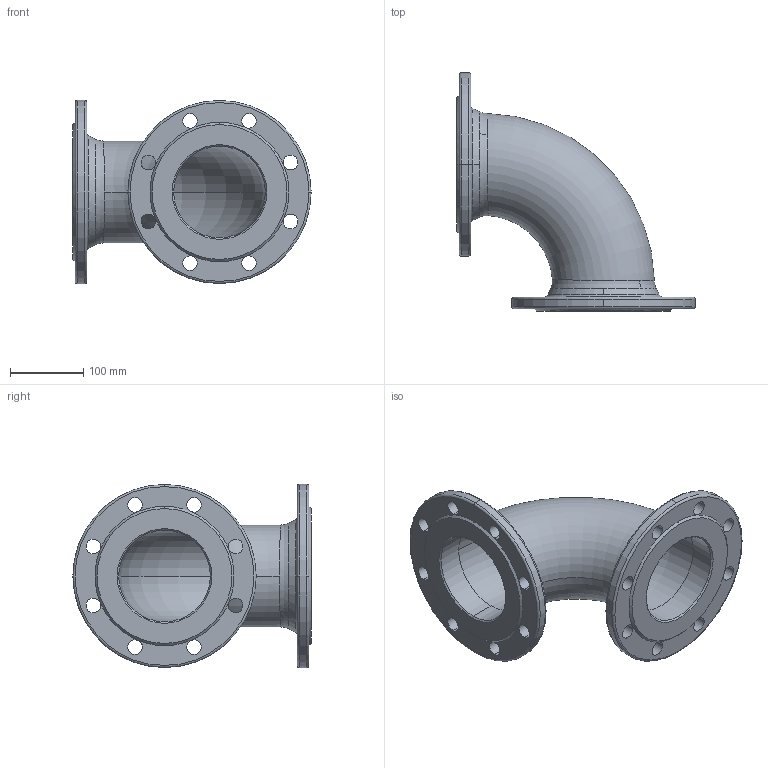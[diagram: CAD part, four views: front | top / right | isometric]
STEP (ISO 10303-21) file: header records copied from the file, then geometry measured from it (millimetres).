
FILE_DESCRIPTION (( 'STEP AP203' ), '1' );
FILE_NAME ('O_712_0610_DN125_1X_REV01.step', '2021-11-19T09:54:56', ( '' ), ( '' ), 'SwSTEP 2.0', 'SolidWorks 2019', '' );
FILE_SCHEMA (( 'CONFIG_CONTROL_DESIGN' ));
Length unit declared in the file: millimetre
Products named in the file (1): O_712_0610_DN125_1X_REV01
Bounding box: 325 x 325 x 250 mm (x, y, z)
Volume: 2094981.2 mm3; surface area: 420745.9 mm2
Topology: 1 solids, 1 shells, 167 faces, 493 edges, 320 vertices
Faces by surface type: cylinder 90, plane 41, torus 20, cone 12, bspline 4
Entity records: 7686 total; most frequent: CARTESIAN_POINT 3321, ORIENTED_EDGE 986, DIRECTION 805, EDGE_CURVE 493, AXIS2_PLACEMENT_3D 334, VERTEX_POINT 320, EDGE_LOOP 193, B_SPLINE_CURVE_WITH_KNOTS 186
